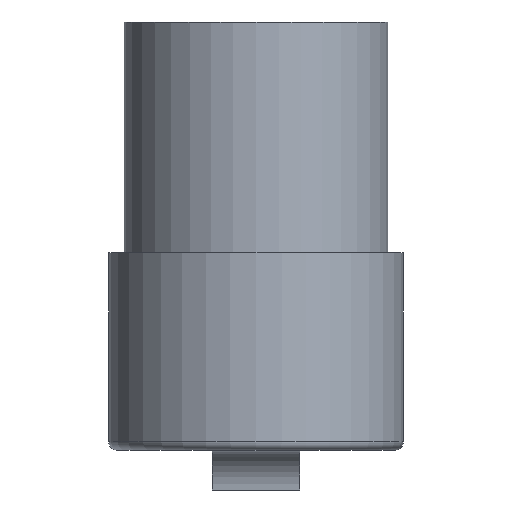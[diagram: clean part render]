
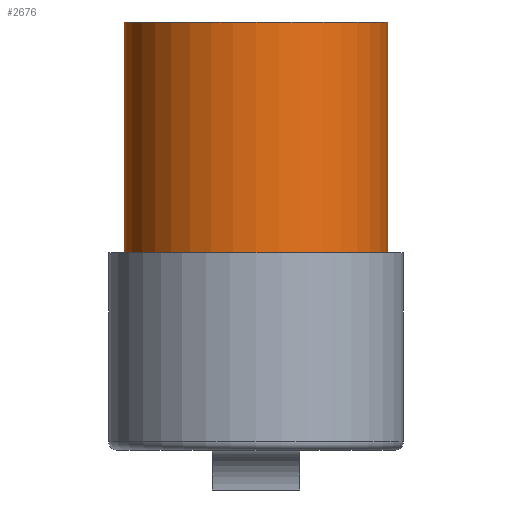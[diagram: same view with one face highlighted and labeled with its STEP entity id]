
A CAD part, front view. The second image highlights one B-rep face of the part: STEP entity #2676.
In plain terms, the highlighted cylindrical face has radius 30 mm (diameter 60 mm), a partial arc.
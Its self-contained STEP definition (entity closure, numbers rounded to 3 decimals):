
#71 = CARTESIAN_POINT ( 'NONE',  ( 30., 0., 54.5 ) ) ;
#202 = EDGE_CURVE ( 'NONE', #2164, #1581, #2482, .T. ) ;
#299 = EDGE_CURVE ( 'NONE', #1354, #405, #767, .T. ) ;
#317 = AXIS2_PLACEMENT_3D ( 'NONE', #1688, #438, #1900 ) ;
#341 = CIRCLE ( 'NONE', #317, 30. ) ;
#346 = DIRECTION ( 'NONE',  ( -1., 0., 0. ) ) ;
#402 = ORIENTED_EDGE ( 'NONE', *, *, #2515, .F. ) ;
#405 = VERTEX_POINT ( 'NONE', #992 ) ;
#438 = DIRECTION ( 'NONE',  ( 0., 0., 1. ) ) ;
#503 = CYLINDRICAL_SURFACE ( 'NONE', #2001, 30. ) ;
#528 = ORIENTED_EDGE ( 'NONE', *, *, #299, .F. ) ;
#704 = VECTOR ( 'NONE', #1376, 1000. ) ;
#767 = LINE ( 'NONE', #2408, #704 ) ;
#958 = ORIENTED_EDGE ( 'NONE', *, *, #202, .T. ) ;
#992 = CARTESIAN_POINT ( 'NONE',  ( 30., 0., 2. ) ) ;
#1175 = DIRECTION ( 'NONE',  ( 0., 0., -1. ) ) ;
#1252 = DIRECTION ( 'NONE',  ( 0., 0., 1. ) ) ;
#1353 = EDGE_CURVE ( 'NONE', #1581, #405, #1898, .T. ) ;
#1354 = VERTEX_POINT ( 'NONE', #71 ) ;
#1376 = DIRECTION ( 'NONE',  ( 0., 0., -1. ) ) ;
#1540 = CARTESIAN_POINT ( 'NONE',  ( -30., 0., 2. ) ) ;
#1581 = VERTEX_POINT ( 'NONE', #1540 ) ;
#1596 = CARTESIAN_POINT ( 'NONE',  ( 0., 0., 54.5 ) ) ;
#1625 = FACE_OUTER_BOUND ( 'NONE', #2039, .T. ) ;
#1684 = ORIENTED_EDGE ( 'NONE', *, *, #1353, .T. ) ;
#1688 = CARTESIAN_POINT ( 'NONE',  ( 0., 0., 54.5 ) ) ;
#1898 = CIRCLE ( 'NONE', #2100, 30. ) ;
#1900 = DIRECTION ( 'NONE',  ( 1., 0., 0. ) ) ;
#2001 = AXIS2_PLACEMENT_3D ( 'NONE', #1596, #1175, #346 ) ;
#2039 = EDGE_LOOP ( 'NONE', ( #528, #402, #958, #1684 ) ) ;
#2100 = AXIS2_PLACEMENT_3D ( 'NONE', #2488, #1252, #2706 ) ;
#2164 = VERTEX_POINT ( 'NONE', #2630 ) ;
#2384 = DIRECTION ( 'NONE',  ( 0., 0., -1. ) ) ;
#2408 = CARTESIAN_POINT ( 'NONE',  ( 30., 0., 54.5 ) ) ;
#2412 = VECTOR ( 'NONE', #2384, 1000. ) ;
#2482 = LINE ( 'NONE', #2571, #2412 ) ;
#2488 = CARTESIAN_POINT ( 'NONE',  ( 0., 0., 2. ) ) ;
#2515 = EDGE_CURVE ( 'NONE', #2164, #1354, #341, .T. ) ;
#2571 = CARTESIAN_POINT ( 'NONE',  ( -30., 0., 54.5 ) ) ;
#2630 = CARTESIAN_POINT ( 'NONE',  ( -30., 0., 54.5 ) ) ;
#2676 = ADVANCED_FACE ( 'NONE', ( #1625 ), #503, .T. ) ;
#2706 = DIRECTION ( 'NONE',  ( 1., 0., 0. ) ) ;
